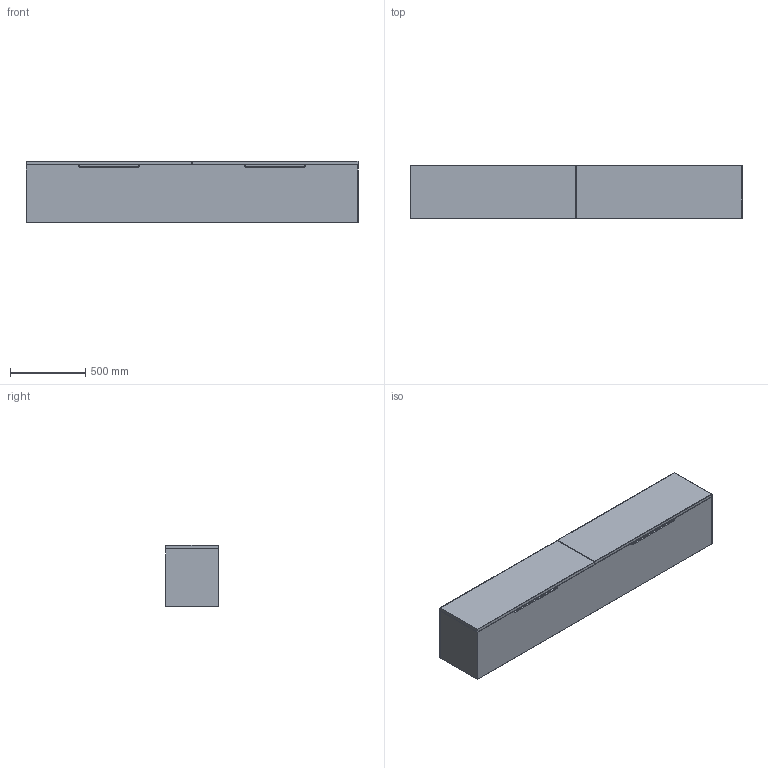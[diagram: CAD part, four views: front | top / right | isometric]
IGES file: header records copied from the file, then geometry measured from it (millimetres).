
Start section: SolidWorks IGES file using analytic representation for surfaces
Global section: file name: \\UTENTI\Dati Utenti\Tecnico\DC\2D - 3D per sito\3D\DeCastelli-3D-Tako wall-mounted console 220.igs; native system: SolidWorks 2022; preprocessor: SolidWorks 2022; author: maria; date: 240725.084408; units: millimetre
Bounding box: 2200 x 350 x 405.5 mm (x, y, z)
Surface area: 7802668.6 mm2 (no closed solid volume)
Topology: 0 solids, 0 shells, 124 faces, 1063 edges, 1063 vertices
Faces by surface type: bspline 90, revolution 34
